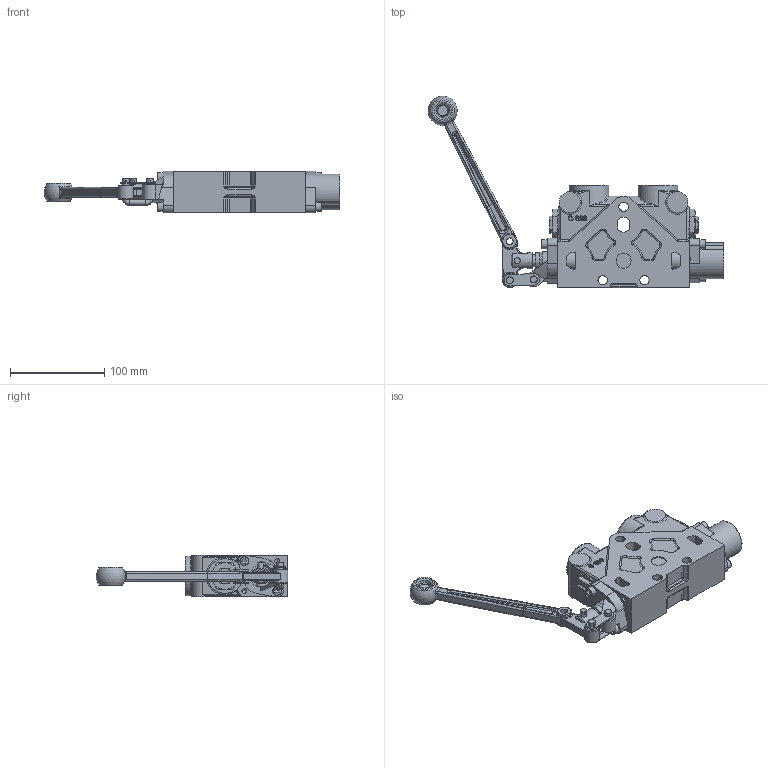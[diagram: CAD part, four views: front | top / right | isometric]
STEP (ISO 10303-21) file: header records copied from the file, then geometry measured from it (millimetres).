
FILE_DESCRIPTION((''),'2;1');
FILE_NAME('C:\Vault\Workspace\z_ShellModels\S20\20L1CA1_Shell.stp','2012-03-20T10:40:59',('PetersW'),(''),'Autodesk Inventor 2012','Autodesk Inventor 2012','');
FILE_SCHEMA(('AUTOMOTIVE_DESIGN { 1 0 10303 214 1 1 1 1 }'));
Length unit declared in the file: inch
Products named in the file (1): Part6
Bounding box: 313.62 x 202.95 x 44.45 mm (x, y, z)
Volume: 689919.4 mm3; surface area: 103807.7 mm2
Topology: 2 solids, 14 shells, 909 faces, 2272 edges, 1405 vertices
Faces by surface type: plane 334, bspline 210, cylinder 204, torus 78, cone 74, sphere 9
Full cylindrical faces by diameter (mm): 1.981 x2, 2.388 x1, 4.978 x8, 6.248 x1, 6.35 x4, 6.388 x2, 6.401 x2, 6.528 x1, 6.604 x2, 6.858 x2, 7.087 x2, 7.277 x1, 7.366 x2, 7.493 x2, 9.525 x5, 9.931 x3, 12.7 x1, 15.875 x4, 16.764 x2, 19.063 x2, 20.345 x2, 22.225 x1, 24.206 x1, 25.4 x5, 26.822 x3, 36.513 x1, 36.525 x1, 42.164 x2
Entity records: 31776 total; most frequent: CARTESIAN_POINT 11387, ORIENTED_EDGE 4134, DIRECTION 3622, EDGE_CURVE 2067, AXIS2_PLACEMENT_3D 1396, VERTEX_POINT 1346, EDGE_LOOP 1115, STYLED_ITEM 911
